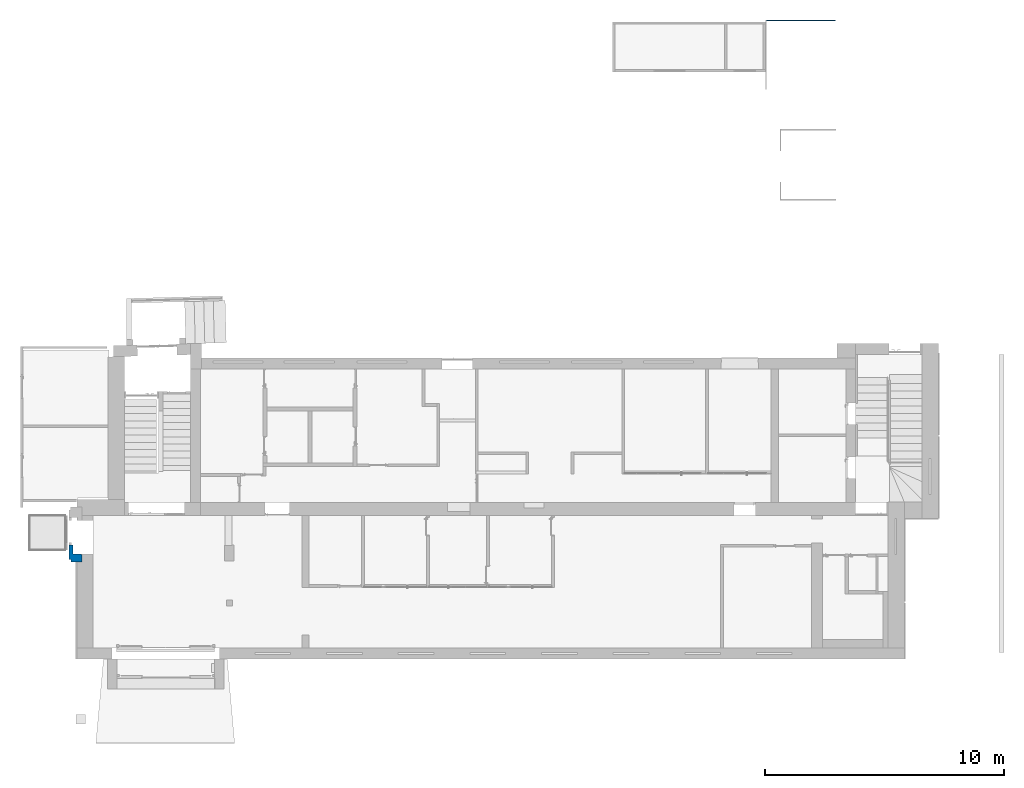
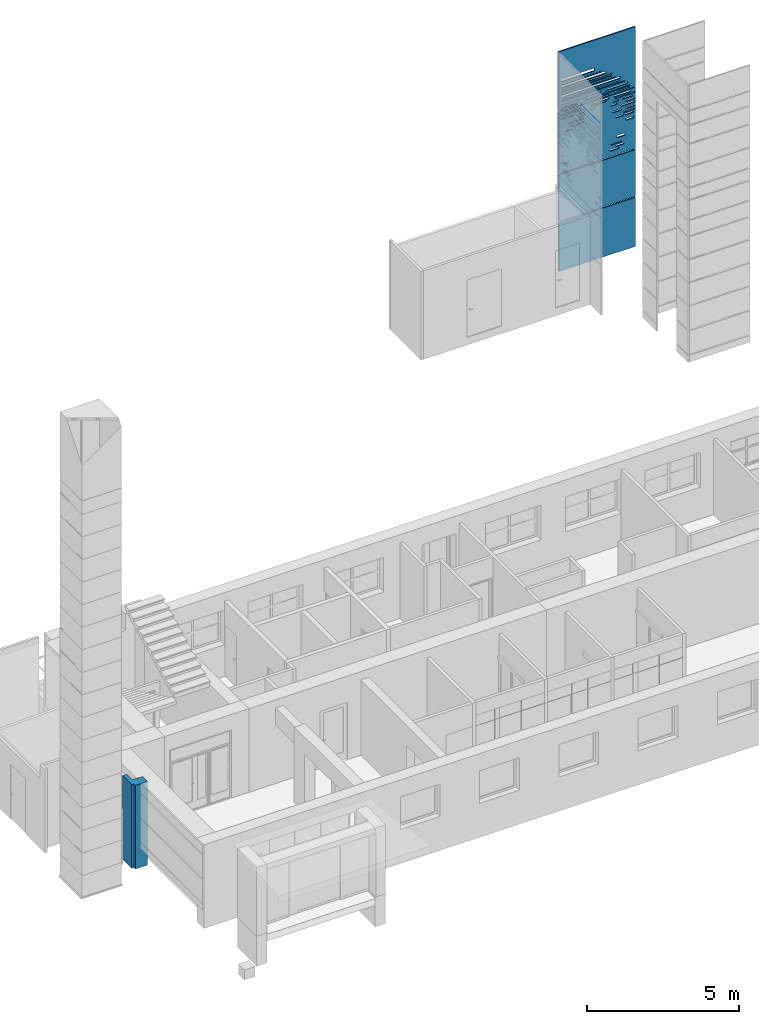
# One storey, part 31 of 49: 2 walls, 50 openings.
"""IFC2X3 building model written with IfcOpenShell, lengths in millimetres."""

from ifc_helpers import new_model, entity, si_unit, converted_unit, derived_unit, direction, frame, frame_2d, origin, origin_2d_with_axis, place, context, subcontext, project, spatial, rectangle, extrude, face_set, surface_model, material, type_object, element, save


model = new_model("IFC2X3")

# Units and contexts
model_context = context("Model", 3, precision=0.01, world=origin(), true_north=direction((6.12303176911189e-17, 1.0)))
body_context = subcontext(model_context, "Body", "Model", "MODEL_VIEW")
ifc_project = project(units=[si_unit("LENGTHUNIT", "METRE", prefix="MILLI"), si_unit("AREAUNIT", "SQUARE_METRE"), si_unit("VOLUMEUNIT", "CUBIC_METRE"), converted_unit("PLANEANGLEUNIT", "DEGREE", entity("IfcRatioMeasure", 0.0174532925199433), si_unit("PLANEANGLEUNIT", "RADIAN"), dimensions=[0, 0, 0, 0, 0, 0, 0]), si_unit("MASSUNIT", "GRAM", prefix="KILO"), derived_unit("MASSDENSITYUNIT", [(si_unit("MASSUNIT", "GRAM", prefix="KILO"), 1), (si_unit("LENGTHUNIT", "METRE"), -3)]), si_unit("TIMEUNIT", "SECOND"), si_unit("FREQUENCYUNIT", "HERTZ"), si_unit("THERMODYNAMICTEMPERATUREUNIT", "DEGREE_CELSIUS"), derived_unit("THERMALTRANSMITTANCEUNIT", [(si_unit("MASSUNIT", "GRAM", prefix="KILO"), 1), (si_unit("THERMODYNAMICTEMPERATUREUNIT", "KELVIN"), -1), (si_unit("TIMEUNIT", "SECOND"), -3)]), derived_unit("VOLUMETRICFLOWRATEUNIT", [(si_unit("LENGTHUNIT", "METRE"), 3), (si_unit("TIMEUNIT", "SECOND"), -1)]), si_unit("ELECTRICCURRENTUNIT", "AMPERE"), si_unit("ELECTRICVOLTAGEUNIT", "VOLT"), si_unit("POWERUNIT", "WATT"), si_unit("FORCEUNIT", "NEWTON", prefix="KILO"), si_unit("ILLUMINANCEUNIT", "LUX"), si_unit("LUMINOUSFLUXUNIT", "LUMEN"), si_unit("LUMINOUSINTENSITYUNIT", "CANDELA"), derived_unit("USERDEFINED", [(si_unit("MASSUNIT", "GRAM", prefix="KILO"), -1), (si_unit("LENGTHUNIT", "METRE"), -2), (si_unit("TIMEUNIT", "SECOND"), 3), (si_unit("LUMINOUSFLUXUNIT", "LUMEN"), 1)]), derived_unit("LINEARVELOCITYUNIT", [(si_unit("LENGTHUNIT", "METRE"), 1), (si_unit("TIMEUNIT", "SECOND"), -1)]), si_unit("PRESSUREUNIT", "PASCAL"), derived_unit("USERDEFINED", [(si_unit("LENGTHUNIT", "METRE"), -2), (si_unit("MASSUNIT", "GRAM", prefix="KILO"), 1), (si_unit("TIMEUNIT", "SECOND"), -2)])], contexts=[model_context])

# Site, building, storey
site_placement = place(None, frame((-151.875543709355, 2715.0, 0.0)))
site = spatial("IfcSite", under=ifc_project, at=site_placement, Name="Surface", CompositionType="ELEMENT")
building_placement = place(site_placement, origin())
building = spatial("IfcBuilding", under=site, at=building_placement, CompositionType="ELEMENT")
storey_placement = place(building_placement, origin())
storey = spatial("IfcBuildingStorey", under=building, at=storey_placement, Name="1 korrus", CompositionType="ELEMENT", Elevation=3.0969999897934e-10)

# Wall
ifc_material_1 = material(Name="Paint - Sand Beige")
wall_type_1 = type_object("IfcWallType", Name="SEIN - 006", PredefinedType="NOTDEFINED", material=ifc_material_1)
wall_1_placement = place(storey_placement, frame((-541.883383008, 4071.05734432, 0.0), z_axis=(0.0, 0.0, 1.0), x_axis=(0.0, 1.0, 0.0)))
element("IfcWall", 1, at=wall_1_placement, inside=storey, type_object=wall_type_1, material=ifc_material_1, Name="SEIN - 006:SEIN - 006", ObjectType="SEIN - 006:SEIN - 006", context=body_context, shape_type="SurfaceModel", body=[
    surface_model("IfcFaceBasedSurfaceModel", [(99.9999990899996, -82.139787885, 3350.0), (99.9999990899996, 0.0, 3350.0), (100.00182932, 0.0, 0.0), (100.00182932, -82.139787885, 0.0), (99.9999990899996, -82.139787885, 3350.0), (0.0, -82.139787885, 3350.0), (0.0, -541.75892850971, 3350.0), (318.92299153, -541.75892850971, 3350.0), (341.8398406, -162.013561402, 3350.0), (700.32644567, -162.013561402, 3350.0), (700.32644567, 0.0, 3350.0), (99.9999990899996, 0.0, 3350.0), (99.9999990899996, 0.0, 3350.0), (700.32644567, 0.0, 3350.0), (700.32828135, 0.0, 0.0), (100.00182932, 0.0, 0.0), (0.00182932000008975, -82.139787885, 0.0), (0.00182932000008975, -541.758928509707, 0.0), (318.92299153, -541.758928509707, 0.0), (341.84167301, -162.013561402, 0.0), (700.32828135, -162.013561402, 0.0), (700.32828135, 0.0, 0.0), (100.00182932, 0.0, 0.0), (100.00182932, -82.139787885, 0.0), (0.0, -82.139787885, 3350.0), (99.9999990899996, -82.139787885, 3350.0), (100.00182932, -82.139787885, 0.0), (0.00182932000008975, -82.139787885, 0.0), (0.00182932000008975, -82.139787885, 0.0), (0.00182932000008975, -541.758928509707, 0.0), (0.0, -541.75892850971, 3350.0), (0.0, -82.139787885, 3350.0), (0.00182932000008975, -541.758928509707, 0.0), (318.92299153, -541.758928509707, 0.0), (318.92299153, -541.75892850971, 3350.0), (0.0, -541.75892850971, 3350.0), (341.841216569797, -162.013533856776, 0.0), (341.839384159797, -162.013533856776, 3350.0), (318.922535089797, -541.758900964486, 3350.0), (318.924360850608, -541.759011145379, 0.0), (341.8398406, -162.013561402, 3350.0), (341.84167301, -162.013561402, 0.0), (700.32828135, -162.013561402, 0.0), (700.32644567, -162.013561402, 3350.0), (700.326445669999, 0.0, 3350.0), (700.326445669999, -162.013561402, 3350.0), (700.32828135, -162.013561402, 0.0), (700.32828135, 0.0, 0.0)], [face_set([[[0, 1, 2, 3]]]), face_set([[[4, 5, 6, 7, 8, 9, 10, 11]]]), face_set([[[12, 13, 14, 15]]]), face_set([[[16, 17, 18, 19, 20, 21, 22, 23]]]), face_set([[[24, 25, 26, 27]]]), face_set([[[28, 29, 30, 31]]]), face_set([[[32, 33, 34, 35]]]), face_set([[[36, 37, 38, 39]]]), face_set([[[40, 41, 42, 43]]]), face_set([[[44, 45, 46, 47]]])]),
])

# Wall, openings
ifc_material_2 = material(Name="Steel/Aluminium")
wall_type_2 = type_object("IfcWallType", Name="trepi sein1:trepi sein1", PredefinedType="NOTDEFINED", material=ifc_material_2)
wall_2_placement = place(storey_placement, frame((28651.6162682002, 26710.0, 0.0)))
wall_2 = element("IfcWall", 2, at=wall_2_placement, inside=storey, type_object=wall_type_2, material=ifc_material_2, Name="trepi sein1:trepi sein1", ObjectType="trepi sein1:trepi sein1", context=body_context, shape_type="SweptSolid", body=[
    extrude(rectangle(XDim=49.9999999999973, YDim=2900.00000000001, at=frame_2d((0.0, 4.32009983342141e-12), x_axis=(1.0, 0.0))), frame((1450.0, 25.0, 6425.0), z_axis=(0.0, 0.0, 1.0), x_axis=(0.0, 1.0, 0.0)), (0.0, 0.0, 1.0), 2375.26883013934),
    extrude(rectangle(XDim=49.9999999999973, YDim=2900.00000000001, at=frame_2d((2.16715534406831e-12, 2.1600499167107e-12), x_axis=(1.0, 0.0))), frame((1450.0, 25.0, 0.0), z_axis=(0.0, 0.0, 1.0), x_axis=(0.0, 1.0, 0.0)), (0.0, 0.0, 1.0), 1965.0),
    extrude(rectangle(XDim=49.9999999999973, YDim=2900.00000000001, at=frame_2d((0.0, 4.32009983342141e-12), x_axis=(1.0, 0.0))), frame((1450.0, 25.0, 3925.0), z_axis=(0.0, 0.0, 1.0), x_axis=(0.0, 1.0, 0.0)), (0.0, 0.0, 1.0), 2450.0),
    extrude(rectangle(XDim=49.9999999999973, YDim=2900.00000000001, at=frame_2d((0.0, 2.1600499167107e-12), x_axis=(1.0, 0.0))), frame((1450.0, 25.0, 2015.0), z_axis=(0.0, 0.0, 1.0), x_axis=(0.0, 1.0, 0.0)), (0.0, 0.0, 1.0), 1860.0),
])
opening_1_placement = place(storey_placement, frame((28651.6162682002, 26710.0, 0.0)))
element("IfcOpeningElement", 3, at=opening_1_placement, cuts=wall_2, Name="trepi sein1:trepi sein1:1", ObjectType="Opening", context=body_context, shape_type="SweptSolid", body=[
    extrude(rectangle(XDim=61.2932578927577, YDim=336.362635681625, at=frame_2d((0.0, 0.0), x_axis=(0.0, 1.0))), frame((2105.08216654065, 0.0, 4173.44171084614), z_axis=(0.0, 1.0, 0.0), x_axis=(-1.0, 0.0, 0.0)), (0.0, 0.0, 1.0), 49.9999999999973),
])
opening_2_placement = place(storey_placement, frame((28651.6162682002, 26710.0, 0.0)))
element("IfcOpeningElement", 4, at=opening_2_placement, cuts=wall_2, Name="trepi sein1:trepi sein1:2", ObjectType="Opening", context=body_context, shape_type="SweptSolid", body=[
    extrude(rectangle(XDim=63.6123424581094, YDim=315.766463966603, at=origin_2d_with_axis()), frame((2309.93790279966, 0.0, 4287.43815852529), z_axis=(0.0, 1.0, 0.0), x_axis=(0.0, 0.0, -1.0)), (0.0, 0.0, 1.0), 49.9999999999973),
])
opening_3_placement = place(storey_placement, frame((28651.6162682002, 26710.0, 0.0)))
element("IfcOpeningElement", 5, at=opening_3_placement, cuts=wall_2, Name="trepi sein1:trepi sein1:3", ObjectType="Opening", context=body_context, shape_type="SweptSolid", body=[
    extrude(rectangle(XDim=63.9897979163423, YDim=284.551326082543, at=frame_2d((0.0, -4.33431068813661e-12), x_axis=(1.0, 0.0))), frame((222.548599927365, 0.0, 4287.62688625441), z_axis=(0.0, 1.0, 0.0), x_axis=(0.0, 0.0, -1.0)), (0.0, 0.0, 1.0), 49.9999999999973),
])
opening_4_placement = place(storey_placement, frame((28651.6162682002, 26710.0, 0.0)))
element("IfcOpeningElement", 6, at=opening_4_placement, cuts=wall_2, Name="trepi sein1:trepi sein1:4", ObjectType="Opening", context=body_context, shape_type="SweptSolid", body=[
    extrude(rectangle(XDim=52.5438992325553, YDim=402.005544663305, at=frame_2d((-2.1600499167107e-12, 0.0), x_axis=(0.0, 1.0))), frame((2177.11088492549, 0.0, 4397.87498455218), z_axis=(0.0, 1.0, 0.0), x_axis=(1.0, 0.0, 0.0)), (0.0, 0.0, 1.0), 49.9999999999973),
])
opening_5_placement = place(storey_placement, frame((28651.6162682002, 26710.0, 0.0)))
element("IfcOpeningElement", 7, at=opening_5_placement, cuts=wall_2, Name="trepi sein1:trepi sein1:5", ObjectType="Opening", context=body_context, shape_type="SweptSolid", body=[
    extrude(rectangle(XDim=92.4935339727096, YDim=313.381887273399, at=frame_2d((0.0, 2.17426077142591e-12), x_axis=(1.0, 0.0))), frame((2348.68458691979, 0.0, 4633.99435882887), z_axis=(0.0, 1.0, 0.0), x_axis=(0.0, 0.0, -1.0)), (0.0, 0.0, 1.0), 49.9999999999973),
])
opening_6_placement = place(storey_placement, frame((28651.6162682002, 26710.0, 0.0)))
element("IfcOpeningElement", 8, at=opening_6_placement, cuts=wall_2, Name="trepi sein1:trepi sein1:6", ObjectType="Opening", context=body_context, shape_type="SweptSolid", body=[
    extrude(rectangle(XDim=92.4935339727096, YDim=74.0077841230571, at=frame_2d((0.0, -4.33431068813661e-12), x_axis=(1.0, 0.0))), frame((117.276828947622, 0.0, 4633.99435882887), z_axis=(0.0, 1.0, 0.0), x_axis=(0.0, 0.0, -1.0)), (0.0, 0.0, 1.0), 49.9999999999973),
])
opening_7_placement = place(storey_placement, frame((28651.6162682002, 26710.0, 0.0)))
element("IfcOpeningElement", 9, at=opening_7_placement, cuts=wall_2, Name="trepi sein1:trepi sein1:7", ObjectType="Opening", context=body_context, shape_type="SweptSolid", body=[
    extrude(rectangle(XDim=71.3851652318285, YDim=280.155766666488, at=frame_2d((0.0, 0.0), x_axis=(0.0, 1.0))), frame((2674.52226733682, 0.0, 5206.95953558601), z_axis=(0.0, 1.0, 0.0), x_axis=(1.0, 0.0, 0.0)), (0.0, 0.0, 1.0), 49.9999999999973),
])
opening_8_placement = place(storey_placement, frame((28651.6162682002, 26710.0, 0.0)))
element("IfcOpeningElement", 10, at=opening_8_placement, cuts=wall_2, Name="trepi sein1:trepi sein1:8", ObjectType="Opening", context=body_context, shape_type="SweptSolid", body=[
    extrude(rectangle(XDim=62.7887878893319, YDim=309.224620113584, at=frame_2d((-2.17426077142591e-12, 0.0), x_axis=(0.0, 1.0))), frame((2659.98784061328, 0.0, 5427.39412520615), z_axis=(0.0, 1.0, 0.0), x_axis=(1.0, 0.0, 0.0)), (0.0, 0.0, 1.0), 49.9999999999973),
])
opening_9_placement = place(storey_placement, frame((28651.6162682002, 26710.0, 0.0)))
element("IfcOpeningElement", 11, at=opening_9_placement, cuts=wall_2, Name="trepi sein1:trepi sein1:9", ObjectType="Opening", context=body_context, shape_type="SweptSolid", body=[
    extrude(rectangle(XDim=62.7887878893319, YDim=295.707683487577, at=frame_2d((-2.1600499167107e-12, 0.0), x_axis=(0.0, 1.0))), frame((2299.90851256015, 0.0, 5427.39412520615), z_axis=(0.0, 1.0, 0.0), x_axis=(1.0, 0.0, 0.0)), (0.0, 0.0, 1.0), 49.9999999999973),
])
opening_10_placement = place(storey_placement, frame((28651.6162682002, 26710.0, 0.0)))
element("IfcOpeningElement", 12, at=opening_10_placement, cuts=wall_2, Name="trepi sein1:trepi sein1:10", ObjectType="Opening", context=body_context, shape_type="SweptSolid", body=[
    extrude(rectangle(XDim=42.1652066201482, YDim=408.237645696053, at=frame_2d((0.0, 2.17426077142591e-12), x_axis=(1.0, 0.0))), frame((2651.88117715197, 0.0, 5533.38422327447), z_axis=(0.0, 1.0, 0.0), x_axis=(0.0, 0.0, -1.0)), (0.0, 0.0, 1.0), 49.9999999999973),
])
opening_11_placement = place(storey_placement, frame((28651.6162682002, 26710.0, 0.0)))
element("IfcOpeningElement", 13, at=opening_11_placement, cuts=wall_2, Name="trepi sein1:trepi sein1:11", ObjectType="Opening", context=body_context, shape_type="SweptSolid", body=[
    extrude(rectangle(XDim=42.1652066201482, YDim=256.484720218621, at=origin_2d_with_axis()), frame((360.19218771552, 0.0, 5533.38422327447), z_axis=(0.0, 1.0, 0.0), x_axis=(0.0, 0.0, -1.0)), (0.0, 0.0, 1.0), 49.9999999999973),
])
opening_12_placement = place(storey_placement, frame((28651.6162682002, 26710.0, 0.0)))
element("IfcOpeningElement", 14, at=opening_12_placement, cuts=wall_2, Name="trepi sein1:trepi sein1:12", ObjectType="Opening", context=body_context, shape_type="SweptSolid", body=[
    extrude(rectangle(XDim=54.4895814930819, YDim=518.321295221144, at=frame_2d((-2.1600499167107e-12, 0.0), x_axis=(0.0, 1.0))), frame((663.426834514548, 0.0, 5671.63863379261), z_axis=(0.0, 1.0, 0.0), x_axis=(1.0, 0.0, 0.0)), (0.0, 0.0, 1.0), 49.9999999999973),
])
opening_13_placement = place(storey_placement, frame((28651.6162682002, 26710.0, 0.0)))
element("IfcOpeningElement", 15, at=opening_13_placement, cuts=wall_2, Name="trepi sein1:trepi sein1:13", ObjectType="Opening", context=body_context, shape_type="SweptSolid", body=[
    extrude(rectangle(XDim=54.4895814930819, YDim=350.746976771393, at=frame_2d((0.0, 0.0), x_axis=(0.0, 1.0))), frame((2202.74016887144, 0.0, 5671.63863379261), z_axis=(0.0, 1.0, 0.0), x_axis=(1.0, 0.0, 0.0)), (0.0, 0.0, 1.0), 49.9999999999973),
])
opening_14_placement = place(storey_placement, frame((28651.6162682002, 26710.0, 0.0)))
element("IfcOpeningElement", 16, at=opening_14_placement, cuts=wall_2, Name="trepi sein1:trepi sein1:14", ObjectType="Opening", context=body_context, shape_type="SweptSolid", body=[
    extrude(rectangle(XDim=54.4895814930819, YDim=354.570174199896, at=frame_2d((0.0, 0.0), x_axis=(0.0, 1.0))), frame((2711.72947110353, 0.0, 5671.63863379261), z_axis=(0.0, 1.0, 0.0), x_axis=(1.0, 0.0, 0.0)), (0.0, 0.0, 1.0), 49.9999999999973),
])
opening_15_placement = place(storey_placement, frame((28651.6162682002, 26710.0, 0.0)))
element("IfcOpeningElement", 17, at=opening_15_placement, cuts=wall_2, Name="trepi sein1:trepi sein1:15", ObjectType="Opening", context=body_context, shape_type="SweptSolid", body=[
    extrude(rectangle(XDim=56.9222624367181, YDim=506.629996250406, at=frame_2d((0.0, 2.1600499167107e-12), x_axis=(1.0, 0.0))), frame((2602.68500187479, 0.0, 5819.58467582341), z_axis=(0.0, 1.0, 0.0), x_axis=(0.0, 0.0, -1.0)), (0.0, 0.0, 1.0), 49.9999999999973),
])
opening_16_placement = place(storey_placement, frame((28651.6162682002, 26710.0, 0.0)))
element("IfcOpeningElement", 18, at=opening_16_placement, cuts=wall_2, Name="trepi sein1:trepi sein1:16", ObjectType="Opening", context=body_context, shape_type="SweptSolid", body=[
    extrude(rectangle(XDim=56.9222624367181, YDim=554.61232922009, at=origin_2d_with_axis()), frame((645.281317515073, 0.0, 5819.58467582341), z_axis=(0.0, 1.0, 0.0), x_axis=(0.0, 0.0, -1.0)), (0.0, 0.0, 1.0), 49.9999999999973),
])
opening_17_placement = place(storey_placement, frame((28651.6162682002, 26710.0, 0.0)))
element("IfcOpeningElement", 19, at=opening_17_placement, cuts=wall_2, Name="trepi sein1:trepi sein1:17", ObjectType="Opening", context=body_context, shape_type="SweptSolid", body=[
    extrude(rectangle(XDim=59.5138768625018, YDim=203.381372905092, at=frame_2d((2.16715534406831e-12, 0.0), x_axis=(0.0, 1.0))), frame((860.347611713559, 0.0, 5960.20954725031), z_axis=(0.0, 1.0, 0.0), x_axis=(1.0, 0.0, 0.0)), (0.0, 0.0, 1.0), 49.9999999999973),
])
opening_18_placement = place(storey_placement, frame((28651.6162682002, 26710.0, 0.0)))
element("IfcOpeningElement", 20, at=opening_18_placement, cuts=wall_2, Name="trepi sein1:trepi sein1:18", ObjectType="Opening", context=body_context, shape_type="SweptSolid", body=[
    extrude(rectangle(XDim=59.5138768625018, YDim=215.885530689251, at=frame_2d((0.0, 0.0), x_axis=(0.0, 1.0))), frame((2084.05087793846, 0.0, 5960.20954725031), z_axis=(0.0, 1.0, 0.0), x_axis=(1.0, 0.0, 0.0)), (0.0, 0.0, 1.0), 49.9999999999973),
])
opening_19_placement = place(storey_placement, frame((28651.6162682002, 26710.0, 0.0)))
element("IfcOpeningElement", 21, at=opening_19_placement, cuts=wall_2, Name="trepi sein1:trepi sein1:19", ObjectType="Opening", context=body_context, shape_type="SweptSolid", body=[
    extrude(rectangle(XDim=59.5138768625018, YDim=331.555615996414, at=frame_2d((0.0, 0.0), x_axis=(0.0, 1.0))), frame((2700.22219200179, 0.0, 5960.20954725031), z_axis=(0.0, 1.0, 0.0), x_axis=(1.0, 0.0, 0.0)), (0.0, 0.0, 1.0), 49.9999999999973),
])
opening_20_placement = place(storey_placement, frame((28651.6162682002, 26710.0, 0.0)))
element("IfcOpeningElement", 22, at=opening_20_placement, cuts=wall_2, Name="trepi sein1:trepi sein1:20", ObjectType="Opening", context=body_context, shape_type="SweptSolid", body=[
    extrude(rectangle(XDim=53.8403938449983, YDim=385.247959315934, at=origin_2d_with_axis()), frame((2590.53688364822, 0.0, 6081.83922728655), z_axis=(0.0, 1.0, 0.0), x_axis=(0.0, 0.0, -1.0)), (0.0, 0.0, 1.0), 49.9999999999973),
])
opening_21_placement = place(storey_placement, frame((28651.6162682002, 26710.0, 0.0)))
element("IfcOpeningElement", 23, at=opening_21_placement, cuts=wall_2, Name="trepi sein1:trepi sein1:21", ObjectType="Opening", context=body_context, shape_type="SweptSolid", body=[
    extrude(rectangle(XDim=53.8403938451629, YDim=192.623979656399, at=origin_2d_with_axis()), frame((2158.75396163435, 0.0, 6081.83922728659), z_axis=(0.0, 1.0, 0.0), x_axis=(0.0, 0.0, -1.0)), (0.0, 0.0, 1.0), 49.9999999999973),
])
opening_22_placement = place(storey_placement, frame((28651.6162682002, 26710.0, 0.0)))
element("IfcOpeningElement", 24, at=opening_22_placement, cuts=wall_2, Name="trepi sein1:trepi sein1:22", ObjectType="Opening", context=body_context, shape_type="SweptSolid", body=[
    extrude(rectangle(XDim=53.8403938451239, YDim=186.775423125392, at=origin_2d_with_axis()), frame((1280.61810593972, 0.0, 6081.83922728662), z_axis=(0.0, 1.0, 0.0), x_axis=(0.0, 0.0, -1.0)), (0.0, 0.0, 1.0), 49.9999999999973),
])
opening_23_placement = place(storey_placement, frame((28651.6162682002, 26710.0, 0.0)))
element("IfcOpeningElement", 25, at=opening_23_placement, cuts=wall_2, Name="trepi sein1:trepi sein1:23", ObjectType="Opening", context=body_context, shape_type="SweptSolid", body=[
    extrude(rectangle(XDim=53.8403938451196, YDim=203.381372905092, at=frame_2d((0.0, 2.16715534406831e-12), x_axis=(1.0, 0.0))), frame((860.347611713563, 0.0, 6081.83922728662), z_axis=(0.0, 1.0, 0.0), x_axis=(0.0, 0.0, -1.0)), (0.0, 0.0, 1.0), 49.9999999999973),
])
opening_24_placement = place(storey_placement, frame((28651.6162682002, 26710.0, 0.0)))
element("IfcOpeningElement", 26, at=opening_24_placement, cuts=wall_2, Name="trepi sein1:trepi sein1:24", ObjectType="Opening", context=body_context, shape_type="SweptSolid", body=[
    extrude(rectangle(XDim=53.840393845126, YDim=463.331601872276, at=frame_2d((0.0, 2.1600499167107e-12), x_axis=(1.0, 0.0))), frame((311.938737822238, 0.0, 6081.83922728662), z_axis=(0.0, 1.0, 0.0), x_axis=(0.0, 0.0, -1.0)), (0.0, 0.0, 1.0), 49.9999999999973),
])
opening_25_placement = place(storey_placement, frame((28651.6162682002, 26710.0, 0.0)))
element("IfcOpeningElement", 27, at=opening_25_placement, cuts=wall_2, Name="trepi sein1:trepi sein1:25", ObjectType="Opening", context=body_context, shape_type="SweptSolid", body=[
    extrude(rectangle(XDim=49.7853412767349, YDim=749.251765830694, at=frame_2d((2.1600499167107e-12, 0.0), x_axis=(0.0, 1.0))), frame((454.898819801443, 0.0, 6208.05684172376), z_axis=(0.0, 1.0, 0.0), x_axis=(1.0, 0.0, 0.0)), (0.0, 0.0, 1.0), 49.9999999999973),
])
opening_26_placement = place(storey_placement, frame((28651.6162682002, 26710.0, 0.0)))
element("IfcOpeningElement", 28, at=opening_26_placement, cuts=wall_2, Name="trepi sein1:trepi sein1:26", ObjectType="Opening", context=body_context, shape_type="SweptSolid", body=[
    extrude(rectangle(XDim=49.7853412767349, YDim=586.478122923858, at=frame_2d((0.0, 0.0), x_axis=(0.0, 1.0))), frame((1503.23653047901, 0.0, 6208.05684172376), z_axis=(0.0, 1.0, 0.0), x_axis=(1.0, 0.0, 0.0)), (0.0, 0.0, 1.0), 49.9999999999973),
])
opening_27_placement = place(storey_placement, frame((28651.6162682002, 26710.0, 0.0)))
element("IfcOpeningElement", 29, at=opening_27_placement, cuts=wall_2, Name="trepi sein1:trepi sein1:27", ObjectType="Opening", context=body_context, shape_type="SweptSolid", body=[
    extrude(rectangle(XDim=49.7853412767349, YDim=732.509929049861, at=frame_2d((-2.18847162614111e-12, 0.0), x_axis=(0.0, 1.0))), frame((2489.29473708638, 0.0, 6208.05684172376), z_axis=(0.0, 1.0, 0.0), x_axis=(1.0, 0.0, 0.0)), (0.0, 0.0, 1.0), 49.9999999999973),
])
opening_28_placement = place(storey_placement, frame((28651.6162682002, 26710.0, 0.0)))
element("IfcOpeningElement", 30, at=opening_28_placement, cuts=wall_2, Name="trepi sein1:trepi sein1:28", ObjectType="Opening", context=body_context, shape_type="SweptSolid", body=[
    extrude(rectangle(XDim=65.7605058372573, YDim=618.837703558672, at=frame_2d((0.0, 2.1600499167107e-12), x_axis=(1.0, 0.0))), frame((2407.57479150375, 0.0, 6289.16148729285), z_axis=(0.0, 1.0, 0.0), x_axis=(0.0, 0.0, -1.0)), (0.0, 0.0, 1.0), 49.9999999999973),
])
opening_29_placement = place(storey_placement, frame((28651.6162682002, 26710.0, 0.0)))
element("IfcOpeningElement", 31, at=opening_29_placement, cuts=wall_2, Name="trepi sein1:trepi sein1:29", ObjectType="Opening", context=body_context, shape_type="SweptSolid", body=[
    extrude(rectangle(XDim=65.7605058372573, YDim=618.086649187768, at=frame_2d((0.0, -2.18847162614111e-12), x_axis=(1.0, 0.0))), frame((1589.07282959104, 0.0, 6289.16148729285), z_axis=(0.0, 1.0, 0.0), x_axis=(0.0, 0.0, -1.0)), (0.0, 0.0, 1.0), 49.9999999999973),
])
opening_30_placement = place(storey_placement, frame((28651.6162682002, 26710.0, 0.0)))
element("IfcOpeningElement", 32, at=opening_30_placement, cuts=wall_2, Name="trepi sein1:trepi sein1:30", ObjectType="Opening", context=body_context, shape_type="SweptSolid", body=[
    extrude(rectangle(XDim=65.7605058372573, YDim=618.086649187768, at=frame_2d((0.0, -2.18847162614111e-12), x_axis=(1.0, 0.0))), frame((483.323763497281, 0.0, 6289.16148729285), z_axis=(0.0, 1.0, 0.0), x_axis=(0.0, 0.0, -1.0)), (0.0, 0.0, 1.0), 49.9999999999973),
])
opening_31_placement = place(storey_placement, frame((28651.6162682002, 26710.0, 0.0)))
element("IfcOpeningElement", 33, at=opening_31_placement, cuts=wall_2, Name="trepi sein1:trepi sein1:31", ObjectType="Opening", context=body_context, shape_type="SweptSolid", body=[
    extrude(rectangle(XDim=15.0000000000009, YDim=525.000000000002, at=origin_2d_with_axis()), frame((2454.49364328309, 50.0, 6436.88214990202), z_axis=(0.0, -1.0, 0.0), x_axis=(0.0, 0.0, 1.0)), (0.0, 0.0, 1.0), 49.9999999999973),
])
opening_32_placement = place(storey_placement, frame((28651.6162682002, 26710.0, 0.0)))
element("IfcOpeningElement", 34, at=opening_32_placement, cuts=wall_2, Name="trepi sein1:trepi sein1:32", ObjectType="Opening", context=body_context, shape_type="SweptSolid", body=[
    extrude(rectangle(XDim=15.0000000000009, YDim=360.873548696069, at=frame_2d((0.0, 2.1600499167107e-12), x_axis=(1.0, 0.0))), frame((1775.77620552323, 50.0, 6436.88214990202), z_axis=(0.0, -1.0, 0.0), x_axis=(0.0, 0.0, 1.0)), (0.0, 0.0, 1.0), 49.9999999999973),
])
opening_33_placement = place(storey_placement, frame((28651.6162682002, 26710.0, 0.0)))
element("IfcOpeningElement", 35, at=opening_33_placement, cuts=wall_2, Name="trepi sein1:trepi sein1:33", ObjectType="Opening", context=body_context, shape_type="SweptSolid", body=[
    extrude(rectangle(XDim=15.0000000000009, YDim=360.0, at=frame_2d((0.0, 2.1600499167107e-12), x_axis=(1.0, 0.0))), frame((1367.23039437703, 50.0, 6436.88214990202), z_axis=(0.0, -1.0, 0.0), x_axis=(0.0, 0.0, 1.0)), (0.0, 0.0, 1.0), 49.9999999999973),
])
opening_34_placement = place(storey_placement, frame((28651.6162682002, 26710.0, 0.0)))
element("IfcOpeningElement", 36, at=opening_34_placement, cuts=wall_2, Name="trepi sein1:trepi sein1:34", ObjectType="Opening", context=body_context, shape_type="SweptSolid", body=[
    extrude(rectangle(XDim=15.0000000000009, YDim=634.999999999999, at=frame_2d((0.0, -2.18847162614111e-12), x_axis=(1.0, 0.0))), frame((644.538298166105, 50.0, 6436.88214990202), z_axis=(0.0, -1.0, 0.0), x_axis=(0.0, 0.0, 1.0)), (0.0, 0.0, 1.0), 49.9999999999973),
])
opening_35_placement = place(storey_placement, frame((28651.6162682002, 26710.0, 0.0)))
element("IfcOpeningElement", 37, at=opening_35_placement, cuts=wall_2, Name="trepi sein1:trepi sein1:35", ObjectType="Opening", context=body_context, shape_type="SweptSolid", body=[
    extrude(rectangle(XDim=15.0000000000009, YDim=119.999999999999, at=frame_2d((0.0, -4.33075797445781e-12), x_axis=(1.0, 0.0))), frame((140.272936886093, 50.0, 6436.88214990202), z_axis=(0.0, -1.0, 0.0), x_axis=(0.0, 0.0, 1.0)), (0.0, 0.0, 1.0), 49.9999999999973),
])
opening_36_placement = place(storey_placement, frame((28651.6162682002, 26710.0, 0.0)))
element("IfcOpeningElement", 38, at=opening_36_placement, cuts=wall_2, Name="trepi sein1:trepi sein1:36", ObjectType="Opening", context=body_context, shape_type="SweptSolid", body=[
    extrude(rectangle(XDim=43.7473251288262, YDim=617.207317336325, at=frame_2d((0.0, 2.1600499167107e-12), x_axis=(1.0, 0.0))), frame((388.876595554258, 50.0, 6523.41873977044), z_axis=(0.0, -1.0, 0.0), x_axis=(0.0, 0.0, -1.0)), (0.0, 0.0, 1.0), 49.9999999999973),
])
opening_37_placement = place(storey_placement, frame((28651.6162682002, 26710.0, 0.0)))
element("IfcOpeningElement", 39, at=opening_37_placement, cuts=wall_2, Name="trepi sein1:trepi sein1:37", ObjectType="Opening", context=body_context, shape_type="SweptSolid", body=[
    extrude(rectangle(XDim=43.7473251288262, YDim=588.242217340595, at=frame_2d((0.0, 2.1600499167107e-12), x_axis=(1.0, 0.0))), frame((1216.70859079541, 50.0, 6523.41873977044), z_axis=(0.0, -1.0, 0.0), x_axis=(0.0, 0.0, -1.0)), (0.0, 0.0, 1.0), 49.9999999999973),
])
opening_38_placement = place(storey_placement, frame((28651.6162682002, 26710.0, 0.0)))
element("IfcOpeningElement", 40, at=opening_38_placement, cuts=wall_2, Name="trepi sein1:trepi sein1:38", ObjectType="Opening", context=body_context, shape_type="SweptSolid", body=[
    extrude(rectangle(XDim=43.7473251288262, YDim=1055.32737242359, at=origin_2d_with_axis()), frame((2158.4942017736, 50.0, 6523.41873977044), z_axis=(0.0, -1.0, 0.0), x_axis=(0.0, 0.0, -1.0)), (0.0, 0.0, 1.0), 49.9999999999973),
])
opening_39_placement = place(storey_placement, frame((28651.6162682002, 26710.0, 0.0)))
element("IfcOpeningElement", 41, at=opening_39_placement, cuts=wall_2, Name="trepi sein1:trepi sein1:39", ObjectType="Opening", context=body_context, shape_type="SweptSolid", body=[
    extrude(rectangle(XDim=56.5395739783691, YDim=872.408368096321, at=frame_2d((0.0, 0.0), x_axis=(0.0, 1.0))), frame((2178.79370288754, 50.0, 6654.01800331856), z_axis=(0.0, -1.0, 0.0), x_axis=(-1.0, 0.0, 0.0)), (0.0, 0.0, 1.0), 49.9999999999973),
])
opening_40_placement = place(storey_placement, frame((28651.6162682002, 26710.0, 0.0)))
element("IfcOpeningElement", 42, at=opening_40_placement, cuts=wall_2, Name="trepi sein1:trepi sein1:40", ObjectType="Opening", context=body_context, shape_type="SweptSolid", body=[
    extrude(rectangle(XDim=56.5395739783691, YDim=393.345268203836, at=frame_2d((2.1600499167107e-12, 0.0), x_axis=(0.0, 1.0))), frame((1406.670103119, 50.0, 6654.01800331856), z_axis=(0.0, -1.0, 0.0), x_axis=(-1.0, 0.0, 0.0)), (0.0, 0.0, 1.0), 49.9999999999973),
])
opening_41_placement = place(storey_placement, frame((28651.6162682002, 26710.0, 0.0)))
element("IfcOpeningElement", 43, at=opening_41_placement, cuts=wall_2, Name="trepi sein1:trepi sein1:41", ObjectType="Opening", context=body_context, shape_type="SweptSolid", body=[
    extrude(rectangle(XDim=56.5395739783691, YDim=1032.65479006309, at=frame_2d((0.0, 0.0), x_axis=(0.0, 1.0))), frame((596.600331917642, 50.0, 6654.01800331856), z_axis=(0.0, -1.0, 0.0), x_axis=(-1.0, 0.0, 0.0)), (0.0, 0.0, 1.0), 49.9999999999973),
])
opening_42_placement = place(storey_placement, frame((28651.6162682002, 26710.0, 0.0)))
element("IfcOpeningElement", 44, at=opening_42_placement, cuts=wall_2, Name="trepi sein1:trepi sein1:42", ObjectType="Opening", context=body_context, shape_type="SweptSolid", body=[
    extrude(rectangle(XDim=32.41759565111, YDim=2425.10259367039, at=frame_2d((0.0, -2.1600499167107e-12), x_axis=(1.0, 0.0))), frame((1292.82423372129, 50.0, 6776.19442701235), z_axis=(0.0, -1.0, 0.0), x_axis=(0.0, 0.0, -1.0)), (0.0, 0.0, 1.0), 49.9999999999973),
])
opening_43_placement = place(storey_placement, frame((28651.6162682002, 26710.0, 0.0)))
element("IfcOpeningElement", 45, at=opening_43_placement, cuts=wall_2, Name="trepi sein1:trepi sein1:43", ObjectType="Opening", context=body_context, shape_type="SweptSolid", body=[
    extrude(rectangle(XDim=10.8937052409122, YDim=2250.35650677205, at=frame_2d((2.1600499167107e-12, 0.0), x_axis=(0.0, 1.0))), frame((1205.45119027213, 50.0, 6846.67199670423), z_axis=(0.0, -1.0, 0.0), x_axis=(-1.0, 0.0, 0.0)), (0.0, 0.0, 1.0), 49.9999999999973),
])
opening_44_placement = place(storey_placement, frame((28651.6162682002, 26710.0, 0.0)))
element("IfcOpeningElement", 46, at=opening_44_placement, cuts=wall_2, Name="trepi sein1:trepi sein1:44", ObjectType="Opening", context=body_context, shape_type="SweptSolid", body=[
    extrude(rectangle(XDim=83.2110974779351, YDim=2250.35650677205, at=frame_2d((0.0, -2.1600499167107e-12), x_axis=(1.0, 0.0))), frame((1205.45119027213, 50.0, 6962.57403943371), z_axis=(0.0, -1.0, 0.0), x_axis=(0.0, 0.0, -1.0)), (0.0, 0.0, 1.0), 49.9999999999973),
])
opening_45_placement = place(storey_placement, frame((28651.6162682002, 26710.0, 0.0)))
element("IfcOpeningElement", 47, at=opening_45_placement, cuts=wall_2, Name="trepi sein1:trepi sein1:45", ObjectType="Opening", context=body_context, shape_type="SweptSolid", body=[
    extrude(rectangle(XDim=45.5718489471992, YDim=2042.76683567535, at=frame_2d((0.0, 0.0), x_axis=(0.0, 1.0))), frame((1101.65635472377, 50.0, 7058.44834883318), z_axis=(0.0, -1.0, 0.0), x_axis=(-1.0, 0.0, 0.0)), (0.0, 0.0, 1.0), 49.9999999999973),
])
opening_46_placement = place(storey_placement, frame((28651.6162682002, 26710.0, 0.0)))
element("IfcOpeningElement", 48, at=opening_46_placement, cuts=wall_2, Name="trepi sein1:trepi sein1:46", ObjectType="Opening", context=body_context, shape_type="SweptSolid", body=[
    extrude(rectangle(XDim=25.590650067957, YDim=1936.7495478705, at=frame_2d((0.0, 0.0), x_axis=(0.0, 1.0))), frame((1048.64771082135, 50.0, 7153.79409404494), z_axis=(0.0, -1.0, 0.0), x_axis=(-1.0, 0.0, 0.0)), (0.0, 0.0, 1.0), 49.9999999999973),
])
opening_47_placement = place(storey_placement, frame((28651.6162682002, 26710.0, 0.0)))
element("IfcOpeningElement", 49, at=opening_47_placement, cuts=wall_2, Name="trepi sein1:trepi sein1:47", ObjectType="Opening", context=body_context, shape_type="SweptSolid", body=[
    extrude(rectangle(XDim=53.0746529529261, YDim=1936.7495478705, at=frame_2d((0.0, 0.0), x_axis=(0.0, 1.0))), frame((1048.64771082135, 50.0, 7255.9569279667), z_axis=(0.0, -1.0, 0.0), x_axis=(-1.0, 0.0, 0.0)), (0.0, 0.0, 1.0), 49.9999999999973),
])
opening_48_placement = place(storey_placement, frame((28651.6162682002, 26710.0, 0.0)))
element("IfcOpeningElement", 50, at=opening_48_placement, cuts=wall_2, Name="trepi sein1:trepi sein1:48", ObjectType="Opening", context=body_context, shape_type="SweptSolid", body=[
    extrude(rectangle(XDim=88.4583958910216, YDim=1709.13324253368, at=frame_2d((0.0, 0.0), x_axis=(0.0, 1.0))), frame((934.839558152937, 50.0, 7362.28465692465), z_axis=(0.0, -1.0, 0.0), x_axis=(-1.0, 0.0, 0.0)), (0.0, 0.0, 1.0), 49.9999999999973),
])
opening_49_placement = place(storey_placement, frame((28651.6162682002, 26710.0, 0.0)))
element("IfcOpeningElement", 51, at=opening_49_placement, cuts=wall_2, Name="trepi sein1:trepi sein1:49", ObjectType="Opening", context=body_context, shape_type="SweptSolid", body=[
    extrude(rectangle(XDim=51.7119736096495, YDim=1523.06980033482, at=frame_2d((0.0, 0.0), x_axis=(0.0, 1.0))), frame((841.807837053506, 50.0, 7459.14402788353), z_axis=(0.0, -1.0, 0.0), x_axis=(-1.0, 0.0, 0.0)), (0.0, 0.0, 1.0), 49.9999999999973),
])
opening_50_placement = place(storey_placement, frame((28651.6162682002, 26710.0, 0.0)))
element("IfcOpeningElement", 52, at=opening_50_placement, cuts=wall_2, Name="trepi sein1:trepi sein1:50", ObjectType="Opening", context=body_context, shape_type="SweptSolid", body=[
    extrude(rectangle(XDim=117.629103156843, YDim=1273.99059877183, at=frame_2d((0.0, 0.0), x_axis=(0.0, 1.0))), frame((717.268236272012, 50.0, 7621.28607622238), z_axis=(0.0, -1.0, 0.0), x_axis=(-1.0, 0.0, 0.0)), (0.0, 0.0, 1.0), 49.9999999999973),
])

save(model, "model.ifc")
